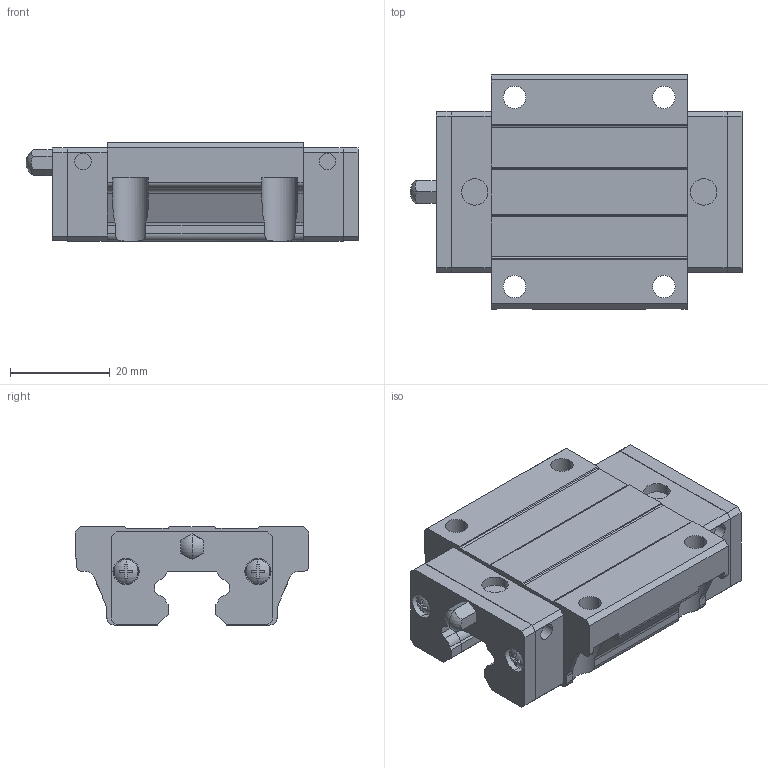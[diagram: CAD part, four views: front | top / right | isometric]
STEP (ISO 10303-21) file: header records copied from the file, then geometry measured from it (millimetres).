
FILE_DESCRIPTION(('starvars output'),'2;1');
FILE_NAME('cv20190626221315000040443.stp','22:13:15 2019/06/26',( 'Thomas Industrial Network Germany GmbH'),( 'Thomas Industrial Network Germany GmbH'),'unknown preprocess','ACIS' ,'unknown authorization');
FILE_SCHEMA(('CONFIG_CONTROL_DESIGN {UNKNOWN IMPLEMENTATION LEVEL}'));
Length unit declared in the file: millimetre
Products named in the file (10): PRODUCT_ID_1; PRODUCT_ID_2; PRODUCT_ID_3; PRODUCT_ID_4; PRODUCT_ID_5; PRODUCT_ID_6; PRODUCT_ID_7; PRODUCT_ID_8; PRODUCT_ID_9; PRODUCT_ID_10
Bounding box: 66.7 x 47 x 19.7 mm (x, y, z)
Volume: 35446.2 mm3; surface area: 15227.4 mm2
Topology: 10 solids, 10 shells, 347 faces, 935 edges, 620 vertices
Faces by surface type: plane 244, cylinder 85, sphere 10, cone 8
Entity records: 10982 total; most frequent: ORIENTED_EDGE 1870, CARTESIAN_POINT 1830, DIRECTION 1536, EDGE_CURVE 935, VECTOR 628, LINE 628, VERTEX_POINT 620, AXIS2_PLACEMENT_3D 454
